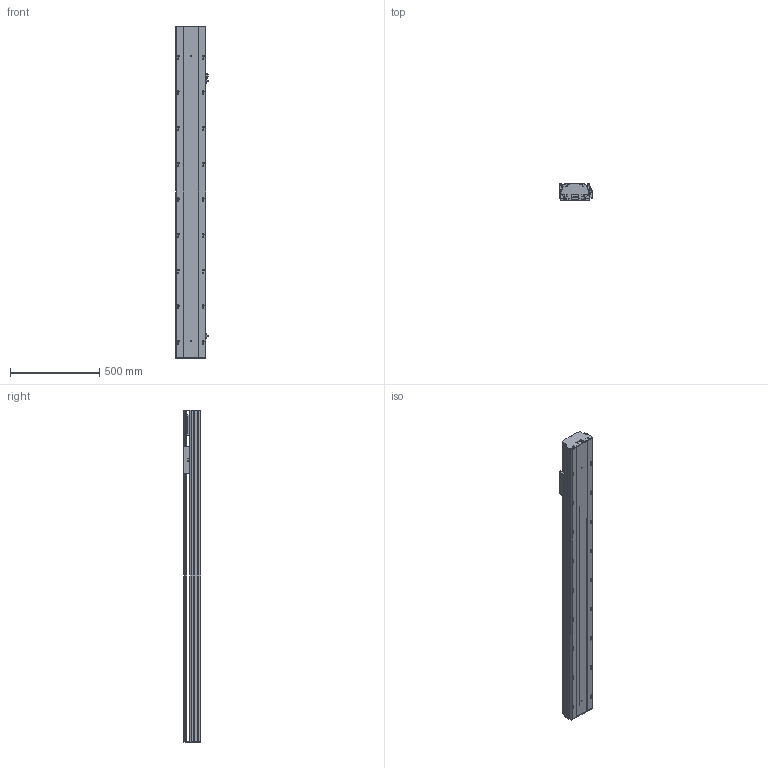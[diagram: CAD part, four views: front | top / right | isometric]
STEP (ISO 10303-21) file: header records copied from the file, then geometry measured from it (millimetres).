
FILE_DESCRIPTION (( 'STEP AP203' ), '1' );
FILE_NAME ('Y170-D10-S1450-M-P400W.STEP', '2020-01-22T14:00:31', ( '微软用户' ), ( '微软中国' ), 'SwSTEP 2.0', 'SolidWorks 2017', '' );
FILE_SCHEMA (( 'CONFIG_CONTROL_DESIGN' ));
Length unit declared in the file: millimetre
Products named in the file (10): Y170-D10-S1450-M-P400W; Y100-135俋离換覜ん; 135-盓傅釱-FK15; Y170耜裔--準---; Y170--雄赽釱-梓--; 170--掛极-M; Y170耜裔--準---M; san松下电机400不带刹车----; Y170-陔遴奻裔-M; YD-Y100-135-新外置传感挡片(通用）
Assembly tree (11 placements, depth 2):
  Y170-D10-S1450-M-P400W
    YD-Y100-135-新外置传感挡片(通用）
    Y100-135俋离換覜ん  x3
    135-盓傅釱-FK15
    Y170耜裔--準---
    Y170--雄赽釱-梓--
    170--掛极-M
    Y170耜裔--準---M
    san松下电机400不带刹车----
    Y170-陔遴奻裔-M
Bounding box: 183.5 x 97 x 1861 mm (x, y, z)
Volume: 7715838.7 mm3; surface area: 2772551.6 mm2
Topology: 11 solids, 11 shells, 821 faces, 2372 edges, 1572 vertices
Faces by surface type: cylinder 435, plane 384, torus 2
Entity records: 27100 total; most frequent: CARTESIAN_POINT 4985, DIRECTION 4462, ORIENTED_EDGE 4408, EDGE_CURVE 2204, AXIS2_PLACEMENT_3D 1593, VERTEX_POINT 1460, LINE 1276, VECTOR 1276
